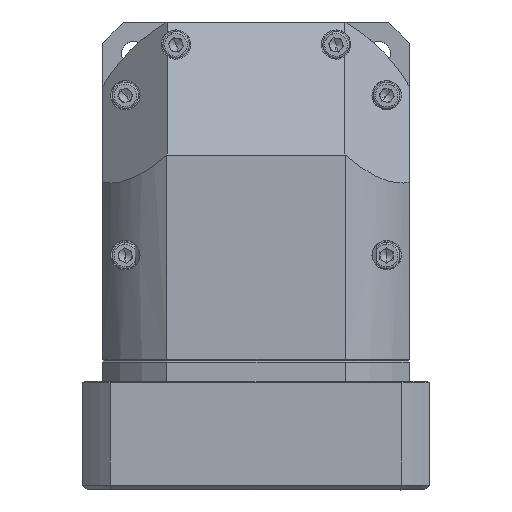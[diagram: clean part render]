
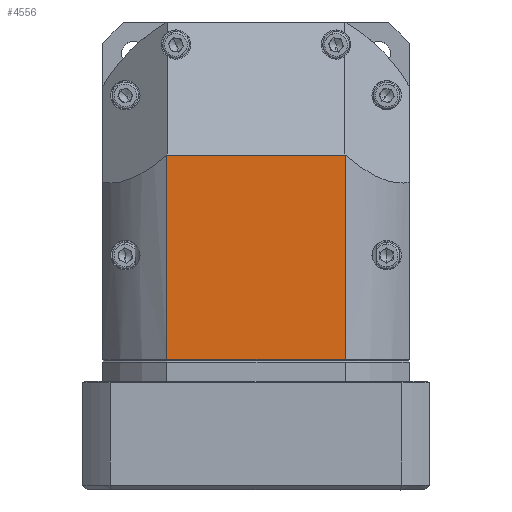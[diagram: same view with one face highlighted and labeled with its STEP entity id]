
A CAD part, top view. The second image highlights one B-rep face of the part: STEP entity #4556.
In plain terms, the highlighted planar face has unit normal (0, 0, 1).
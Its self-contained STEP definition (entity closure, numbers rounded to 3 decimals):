
#1356 = LINE ( 'NONE', #3977, #20722 ) ;
#1423 = ORIENTED_EDGE ( 'NONE', *, *, #15264, .F. ) ;
#1469 = VECTOR ( 'NONE', #6560, 1000. ) ;
#1508 = ORIENTED_EDGE ( 'NONE', *, *, #12813, .F. ) ;
#2406 = AXIS2_PLACEMENT_3D ( 'NONE', #15061, #12583, #12386 ) ;
#3276 = CARTESIAN_POINT ( 'NONE',  ( -90.907, 64.931, 332.854 ) ) ;
#3977 = CARTESIAN_POINT ( 'NONE',  ( -115., 65., 332.854 ) ) ;
#4367 = LINE ( 'NONE', #15600, #1469 ) ;
#4556 = ADVANCED_FACE ( 'NONE', ( #11114 ), #12773, .F. ) ;
#4699 = DIRECTION ( 'NONE',  ( 0., -1., 0. ) ) ;
#5107 = ORIENTED_EDGE ( 'NONE', *, *, #18687, .F. ) ;
#5610 = VERTEX_POINT ( 'NONE', #3276 ) ;
#6560 = DIRECTION ( 'NONE',  ( 0.577, -0.816, 0. ) ) ;
#6760 = CARTESIAN_POINT ( 'NONE',  ( -24.093, 64.931, 332.854 ) ) ;
#8088 = CARTESIAN_POINT ( 'NONE',  ( -90.907, -11.7, 332.854 ) ) ;
#8294 = EDGE_CURVE ( 'NONE', #10890, #28060, #21708, .T. ) ;
#8932 = LINE ( 'NONE', #20732, #18264 ) ;
#9861 = EDGE_LOOP ( 'NONE', ( #19496, #5107, #13068, #1508, #1423, #28959 ) ) ;
#9940 = LINE ( 'NONE', #29658, #19673 ) ;
#10890 = VERTEX_POINT ( 'NONE', #6760 ) ;
#11114 = FACE_OUTER_BOUND ( 'NONE', #9861, .T. ) ;
#12386 = DIRECTION ( 'NONE',  ( -1., 0., 0. ) ) ;
#12583 = DIRECTION ( 'NONE',  ( 0., 0., -1. ) ) ;
#12773 = PLANE ( 'NONE',  #2406 ) ;
#12813 = EDGE_CURVE ( 'NONE', #5610, #21056, #8932, .T. ) ;
#12974 = VERTEX_POINT ( 'NONE', #8088 ) ;
#13068 = ORIENTED_EDGE ( 'NONE', *, *, #29097, .T. ) ;
#14079 = DIRECTION ( 'NONE',  ( 0., 1., 0. ) ) ;
#14389 = VERTEX_POINT ( 'NONE', #25887 ) ;
#15061 = CARTESIAN_POINT ( 'NONE',  ( 10.696, 115., 332.854 ) ) ;
#15264 = EDGE_CURVE ( 'NONE', #12974, #5610, #17742, .T. ) ;
#15459 = CARTESIAN_POINT ( 'NONE',  ( -24.093, -11.7, 332.854 ) ) ;
#15600 = CARTESIAN_POINT ( 'NONE',  ( -24.142, 65., 332.854 ) ) ;
#16218 = DIRECTION ( 'NONE',  ( 0.577, 0.816, 0. ) ) ;
#17314 = DIRECTION ( 'NONE',  ( -1., 0., 0. ) ) ;
#17742 = LINE ( 'NONE', #23017, #19193 ) ;
#18007 = DIRECTION ( 'NONE',  ( -1., 0., 0. ) ) ;
#18264 = VECTOR ( 'NONE', #16218, 1000. ) ;
#18525 = CARTESIAN_POINT ( 'NONE',  ( -24.093, 115., 332.854 ) ) ;
#18687 = EDGE_CURVE ( 'NONE', #14389, #10890, #4367, .T. ) ;
#19193 = VECTOR ( 'NONE', #14079, 1000. ) ;
#19496 = ORIENTED_EDGE ( 'NONE', *, *, #8294, .F. ) ;
#19673 = VECTOR ( 'NONE', #18007, 1000. ) ;
#20722 = VECTOR ( 'NONE', #17314, 1000. ) ;
#20732 = CARTESIAN_POINT ( 'NONE',  ( -90.907, 64.931, 332.854 ) ) ;
#21056 = VERTEX_POINT ( 'NONE', #21345 ) ;
#21345 = CARTESIAN_POINT ( 'NONE',  ( -90.858, 65., 332.854 ) ) ;
#21708 = LINE ( 'NONE', #18525, #24963 ) ;
#23017 = CARTESIAN_POINT ( 'NONE',  ( -90.907, 115., 332.854 ) ) ;
#24963 = VECTOR ( 'NONE', #4699, 1000. ) ;
#25887 = CARTESIAN_POINT ( 'NONE',  ( -24.142, 65., 332.854 ) ) ;
#28060 = VERTEX_POINT ( 'NONE', #15459 ) ;
#28959 = ORIENTED_EDGE ( 'NONE', *, *, #29223, .F. ) ;
#29097 = EDGE_CURVE ( 'NONE', #14389, #21056, #1356, .T. ) ;
#29223 = EDGE_CURVE ( 'NONE', #28060, #12974, #9940, .T. ) ;
#29658 = CARTESIAN_POINT ( 'NONE',  ( 10.696, -11.7, 332.854 ) ) ;
